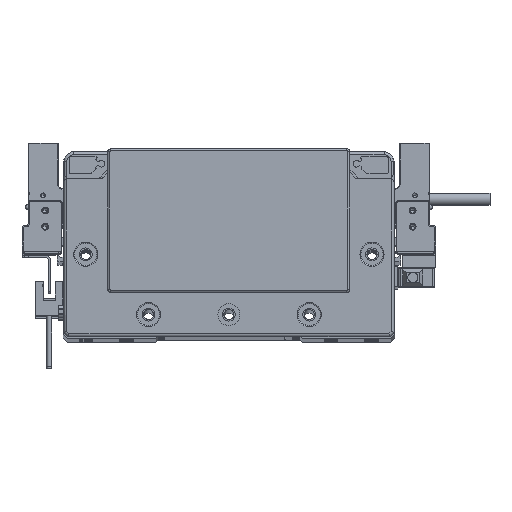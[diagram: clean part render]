
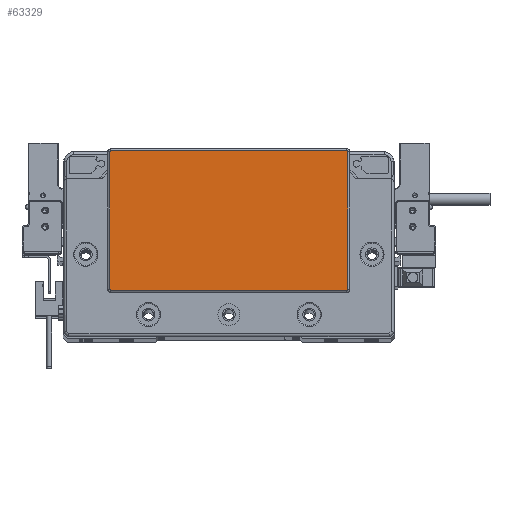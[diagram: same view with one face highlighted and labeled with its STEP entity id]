
A CAD part, top view. The second image highlights one B-rep face of the part: STEP entity #63329.
In plain terms, the highlighted planar face has unit normal (0, 0, 1) as drawn and (0, 0, -1) by its records, which use the part's own axes.
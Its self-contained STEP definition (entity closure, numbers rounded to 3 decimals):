
#1359 = LINE ( 'NONE', #84220, #32097 ) ;
#4722 = AXIS2_PLACEMENT_3D ( 'NONE', #43786, #78105, #42878 ) ;
#5688 = CARTESIAN_POINT ( 'NONE',  ( -58.75, -23.8, -2. ) ) ;
#8835 = VERTEX_POINT ( 'NONE', #29351 ) ;
#8966 = ORIENTED_EDGE ( 'NONE', *, *, #40119, .T. ) ;
#10065 = DIRECTION ( 'NONE',  ( 0., 0., -1. ) ) ;
#10647 = CARTESIAN_POINT ( 'NONE',  ( -59.25, -23.3, -2. ) ) ;
#11078 = EDGE_CURVE ( 'NONE', #77051, #58884, #78144, .T. ) ;
#12433 = EDGE_CURVE ( 'NONE', #44028, #77051, #51718, .T. ) ;
#12903 = DIRECTION ( 'NONE',  ( 0., 0., -1. ) ) ;
#14852 = CARTESIAN_POINT ( 'NONE',  ( 58.75, -23.3, -2. ) ) ;
#15124 = VECTOR ( 'NONE', #45239, 1000. ) ;
#15868 = CARTESIAN_POINT ( 'NONE',  ( -58.75, 45.8, -2. ) ) ;
#19440 = ORIENTED_EDGE ( 'NONE', *, *, #87095, .T. ) ;
#19839 = VECTOR ( 'NONE', #64982, 1000. ) ;
#20777 = CARTESIAN_POINT ( 'NONE',  ( 58.75, -23.8, -2. ) ) ;
#20842 = CIRCLE ( 'NONE', #28103, 0.5 ) ;
#21230 = CARTESIAN_POINT ( 'NONE',  ( 59.25, -23.3, -2. ) ) ;
#21345 = AXIS2_PLACEMENT_3D ( 'NONE', #14852, #57417, #84929 ) ;
#21935 = CARTESIAN_POINT ( 'NONE',  ( -58.75, -23.8, -2. ) ) ;
#22073 = ORIENTED_EDGE ( 'NONE', *, *, #11078, .T. ) ;
#22868 = ORIENTED_EDGE ( 'NONE', *, *, #42039, .T. ) ;
#24952 = LINE ( 'NONE', #5688, #70575 ) ;
#25833 = EDGE_CURVE ( 'NONE', #58884, #8835, #1359, .T. ) ;
#26812 = VERTEX_POINT ( 'NONE', #20777 ) ;
#27960 = ORIENTED_EDGE ( 'NONE', *, *, #12433, .T. ) ;
#28103 = AXIS2_PLACEMENT_3D ( 'NONE', #31588, #10065, #30246 ) ;
#29351 = CARTESIAN_POINT ( 'NONE',  ( 58.75, 45.8, -2. ) ) ;
#30246 = DIRECTION ( 'NONE',  ( -1., 0., 0. ) ) ;
#31348 = AXIS2_PLACEMENT_3D ( 'NONE', #47721, #12903, #40868 ) ;
#31588 = CARTESIAN_POINT ( 'NONE',  ( -58.75, -23.3, -2. ) ) ;
#32097 = VECTOR ( 'NONE', #77798, 1000. ) ;
#32244 = EDGE_CURVE ( 'NONE', #50102, #26812, #50582, .T. ) ;
#32526 = CIRCLE ( 'NONE', #4722, 0.5 ) ;
#33565 = ORIENTED_EDGE ( 'NONE', *, *, #32244, .T. ) ;
#35038 = VERTEX_POINT ( 'NONE', #66217 ) ;
#38351 = CARTESIAN_POINT ( 'NONE',  ( 59.25, -23.3, -2. ) ) ;
#39624 = EDGE_CURVE ( 'NONE', #42843, #44028, #20842, .T. ) ;
#40119 = EDGE_CURVE ( 'NONE', #26812, #42843, #24952, .T. ) ;
#40868 = DIRECTION ( 'NONE',  ( -1., 0., 0. ) ) ;
#41634 = ORIENTED_EDGE ( 'NONE', *, *, #25833, .T. ) ;
#42039 = EDGE_CURVE ( 'NONE', #35038, #50102, #80032, .T. ) ;
#42843 = VERTEX_POINT ( 'NONE', #21935 ) ;
#42878 = DIRECTION ( 'NONE',  ( -1., 0., 0. ) ) ;
#43786 = CARTESIAN_POINT ( 'NONE',  ( 58.75, 45.3, -2. ) ) ;
#44028 = VERTEX_POINT ( 'NONE', #10647 ) ;
#45239 = DIRECTION ( 'NONE',  ( 0., -1., 0. ) ) ;
#47721 = CARTESIAN_POINT ( 'NONE',  ( -58.75, 45.3, -2. ) ) ;
#50102 = VERTEX_POINT ( 'NONE', #21230 ) ;
#50582 = CIRCLE ( 'NONE', #21345, 0.5 ) ;
#51718 = LINE ( 'NONE', #71426, #19839 ) ;
#53348 = EDGE_LOOP ( 'NONE', ( #22868, #33565, #8966, #90252, #27960, #22073, #41634, #19440 ) ) ;
#56409 = AXIS2_PLACEMENT_3D ( 'NONE', #59441, #72277, #80540 ) ;
#57417 = DIRECTION ( 'NONE',  ( 0., 0., -1. ) ) ;
#58884 = VERTEX_POINT ( 'NONE', #15868 ) ;
#59441 = CARTESIAN_POINT ( 'NONE',  ( 0., 0., -2. ) ) ;
#62441 = DIRECTION ( 'NONE',  ( -1., 0., 0. ) ) ;
#63329 = ADVANCED_FACE ( 'NONE', ( #66776 ), #73206, .T. ) ;
#64982 = DIRECTION ( 'NONE',  ( 0., 1., 0. ) ) ;
#66217 = CARTESIAN_POINT ( 'NONE',  ( 59.25, 45.3, -2. ) ) ;
#66776 = FACE_OUTER_BOUND ( 'NONE', #53348, .T. ) ;
#70575 = VECTOR ( 'NONE', #62441, 1000. ) ;
#71426 = CARTESIAN_POINT ( 'NONE',  ( -59.25, 45.3, -2. ) ) ;
#72277 = DIRECTION ( 'NONE',  ( 0., 0., -1. ) ) ;
#73206 = PLANE ( 'NONE',  #56409 ) ;
#77051 = VERTEX_POINT ( 'NONE', #79111 ) ;
#77798 = DIRECTION ( 'NONE',  ( 1., 0., 0. ) ) ;
#78105 = DIRECTION ( 'NONE',  ( 0., 0., -1. ) ) ;
#78144 = CIRCLE ( 'NONE', #31348, 0.5 ) ;
#79111 = CARTESIAN_POINT ( 'NONE',  ( -59.25, 45.3, -2. ) ) ;
#80032 = LINE ( 'NONE', #38351, #15124 ) ;
#80540 = DIRECTION ( 'NONE',  ( -1., 0., 0. ) ) ;
#84220 = CARTESIAN_POINT ( 'NONE',  ( 58.75, 45.8, -2. ) ) ;
#84929 = DIRECTION ( 'NONE',  ( -1., 0., 0. ) ) ;
#87095 = EDGE_CURVE ( 'NONE', #8835, #35038, #32526, .T. ) ;
#90252 = ORIENTED_EDGE ( 'NONE', *, *, #39624, .T. ) ;
